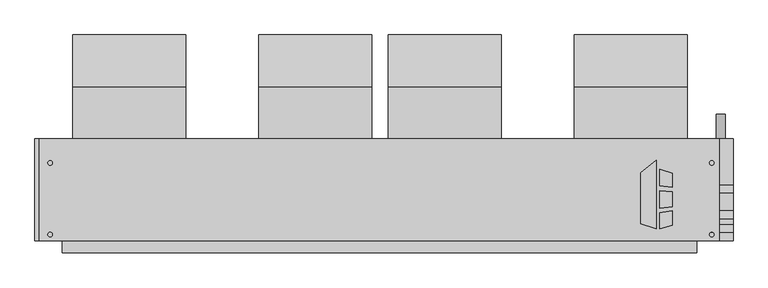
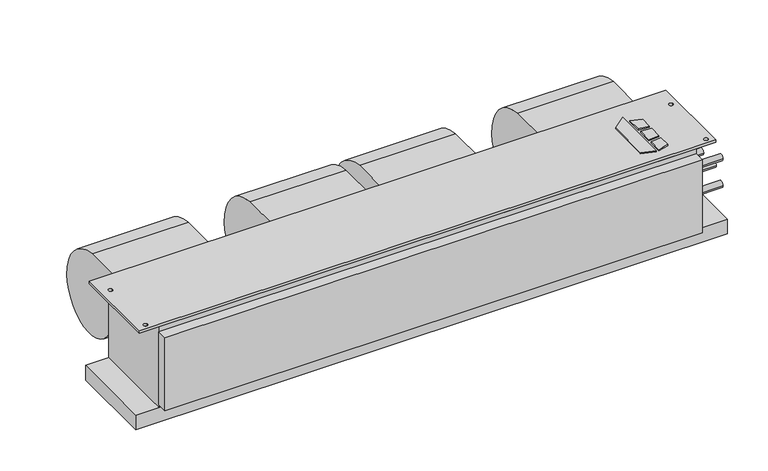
"""IFC4 building model written with IfcOpenShell, lengths in millimetres: proxy geometry, Concealed_Horizontal_Fan_Coil_Unit_-_CHY_-_IEC_-_4-Pipe_RH_2022 : Size 10 - 277v/60Hz/1Ph - 4/1 Coil."""

import ifcopenshell
import ifcopenshell.guid

model = None  # the IFC model being written
_history = None  # IfcOwnerHistory: only IFC2X3 demands one
_inside = {}  # id of a spatial element -> (the spatial element, [elements in it])
_under = {}  # id of a project, library or spatial element -> (it, [spatial elements below it])
_declared = {}  # id of a project -> (the project, [libraries it declares])
_typed = {}  # id of a type object -> (the type object, [elements of that type])
_made_of = {}  # id of a material, layer set ... -> (it, [elements and type objects made of it])


def new_model(schema):
    """Start an empty IFC model of exactly this schema.

    Asked for "IFC4X3", IfcOpenShell would pick the latest addendum, in which some entities
    have other attributes; the version numbers below select the first issue.
    IFC2X3 requires an IfcOwnerHistory on every rooted entity: one is made here for all.
    """
    global model, _history
    if schema == "IFC4X3":
        model = ifcopenshell.file(schema_version=(4, 3, 0, 0))
    else:
        model = ifcopenshell.file(schema=schema)
    _inside.clear()
    _under.clear()
    _declared.clear()
    _typed.clear()
    _made_of.clear()
    _history = None
    if model.schema == "IFC2X3":
        org = make("IfcOrganization", Name="unknown")
        user = make(
            "IfcPersonAndOrganization",
            ThePerson=make("IfcPerson", FamilyName="unknown"),
            TheOrganization=org,
        )
        app = make(
            "IfcApplication",
            ApplicationDeveloper=org,
            Version="unknown",
            ApplicationFullName="unknown",
            ApplicationIdentifier="unknown",
        )
        _history = make(
            "IfcOwnerHistory",
            OwningUser=user,
            OwningApplication=app,
            ChangeAction="ADDED",
            CreationDate=0,
        )
    return model


def make(cls, **values):
    """One entity of the class cls with the attributes given. An attribute that is None is left unset."""
    return model.create_entity(
        cls, **{name: value for name, value in values.items() if value is not None}
    )


def rooted(cls, **values):
    """An entity with a GlobalId (a new one), such as an element, a storey or a relation."""
    return make(cls, GlobalId=ifcopenshell.guid.new(), OwnerHistory=_history, **values)


def si_unit(unit_type, name, prefix=None):
    """IfcSIUnit, for example si_unit("LENGTHUNIT", "METRE", prefix="MILLI")."""
    return make("IfcSIUnit", UnitType=unit_type, Prefix=prefix, Name=name)


def assignment(units):
    """IfcUnitAssignment: the units of a project."""
    return None if units is None else make("IfcUnitAssignment", Units=units)


def point(xyz):
    """IfcCartesianPoint."""
    return None if xyz is None else make("IfcCartesianPoint", Coordinates=xyz)


def direction(xyz):
    """IfcDirection."""
    return None if xyz is None else make("IfcDirection", DirectionRatios=xyz)


def frame(location, z_axis=None, x_axis=None):
    """IfcAxis2Placement3D, a coordinate frame: its origin and axes. An axis left out is left unset."""
    return make(
        "IfcAxis2Placement3D",
        Location=point(location),
        Axis=direction(z_axis),
        RefDirection=direction(x_axis),
    )


def frame_2d(location, x_axis=None):
    """IfcAxis2Placement2D, a coordinate frame in the plane: its origin and x axis."""
    return make(
        "IfcAxis2Placement2D", Location=point(location), RefDirection=direction(x_axis)
    )


def origin():
    """The frame at (0, 0, 0) with its axes left unset."""
    return frame((0.0, 0.0, 0.0))


def origin_with_axes():
    """The frame at (0, 0, 0) with the z axis (0, 0, 1) and the x axis (1, 0, 0) written out."""
    return frame((0.0, 0.0, 0.0), z_axis=(0.0, 0.0, 1.0), x_axis=(1.0, 0.0, 0.0))


def place(relative_to, where):
    """IfcLocalPlacement: puts the frame where relative to a parent placement (None: the world)."""
    return make(
        "IfcLocalPlacement", PlacementRelTo=relative_to, RelativePlacement=where
    )


def context(
    kind, dimensions, precision=None, world=None, true_north=None, identifier=None
):
    """IfcGeometricRepresentationContext, for example the 3D "Model" context."""
    return make(
        "IfcGeometricRepresentationContext",
        ContextIdentifier=identifier,
        ContextType=kind,
        CoordinateSpaceDimension=dimensions,
        Precision=precision,
        WorldCoordinateSystem=world,
        TrueNorth=true_north,
    )


def project(units=None, contexts=None):
    """IfcProject with its units and contexts."""
    return rooted(
        "IfcProject",
        Name="project",
        RepresentationContexts=contexts,
        UnitsInContext=assignment(units),
    )


def spatial(cls, under=None, at=None, **own):
    """A site, building, storey or space (cls), placed at a placement, below another one or the project."""
    s = rooted(cls, ObjectPlacement=at, **own)
    if under is not None:
        _under.setdefault(under.id(), (under, []))[1].append(s)
    return s


def polyline(points):
    """IfcPolyline through the points."""
    return make("IfcPolyline", Points=[point(p) for p in points])


def circle_curve(where, radius):
    """IfcCircle in the frame where."""
    return make("IfcCircle", Position=where, Radius=radius)


def trimmed(basis, trim1, trim2, sense, master):
    """IfcTrimmedCurve: the piece of a basis curve between two trims."""
    return make(
        "IfcTrimmedCurve",
        BasisCurve=basis,
        Trim1=trim1,
        Trim2=trim2,
        SenseAgreement=sense,
        MasterRepresentation=master,
    )


def segment(curve, same_sense, transition):
    """IfcCompositeCurveSegment."""
    return make(
        "IfcCompositeCurveSegment",
        Transition=transition,
        SameSense=same_sense,
        ParentCurve=curve,
    )


def composite_curve(segments, self_intersect=None):
    """IfcCompositeCurve: segments joined end to end."""
    return make("IfcCompositeCurve", Segments=segments, SelfIntersect=self_intersect)


def outline(outer, holes=None, kind="AREA"):
    """IfcArbitraryClosedProfileDef: a profile drawn as a closed curve; with holes, ...WithVoids."""
    if holes is None:
        return make("IfcArbitraryClosedProfileDef", ProfileType=kind, OuterCurve=outer)
    return make(
        "IfcArbitraryProfileDefWithVoids",
        ProfileType=kind,
        OuterCurve=outer,
        InnerCurves=holes,
    )


def extrude(swept, where, along, depth):
    """IfcExtrudedAreaSolid: the profile swept, set in the frame where, extruded along a direction by depth."""
    return make(
        "IfcExtrudedAreaSolid",
        SweptArea=swept,
        Position=where,
        ExtrudedDirection=direction(along),
        Depth=depth,
    )


def shape(context_of_items, identifier, shape_type, items):
    """IfcShapeRepresentation: the items that make up one representation, for example the "Body"."""
    return make(
        "IfcShapeRepresentation",
        ContextOfItems=context_of_items,
        RepresentationIdentifier=identifier,
        RepresentationType=shape_type,
        Items=items,
    )


def source(mapping_origin, context_of_items, identifier, shape_type, items):
    """IfcRepresentationMap: a shape defined once, which mapped items show again and again."""
    return make(
        "IfcRepresentationMap",
        MappingOrigin=mapping_origin,
        MappedRepresentation=shape(context_of_items, identifier, shape_type, items),
    )


def transform(
    local_origin,
    x_axis=None,
    y_axis=None,
    z_axis=None,
    scale=None,
    scale2=None,
    scale3=None,
    uniform=True,
):
    """IfcCartesianTransformationOperator3D, or its non-uniform kind. x_axis, y_axis, z_axis: its Axis1, 2, 3."""
    if uniform:
        return make(
            "IfcCartesianTransformationOperator3D",
            Axis1=direction(x_axis),
            Axis2=direction(y_axis),
            LocalOrigin=point(local_origin),
            Scale=scale,
            Axis3=direction(z_axis),
        )
    return make(
        "IfcCartesianTransformationOperator3DnonUniform",
        Axis1=direction(x_axis),
        Axis2=direction(y_axis),
        LocalOrigin=point(local_origin),
        Scale=scale,
        Axis3=direction(z_axis),
        Scale2=scale2,
        Scale3=scale3,
    )


def mapped(mapping_source, mapping_target):
    """IfcMappedItem: shows the shape of a source again, moved by a transform."""
    return make(
        "IfcMappedItem", MappingSource=mapping_source, MappingTarget=mapping_target
    )


def made_of(thing, what):
    """Note that an element or type object is made of a material, layer set ...; save() writes the relation."""
    if what is not None:
        _made_of.setdefault(what.id(), (what, []))[1].append(thing)
    return thing


def element(
    cls,
    number,
    at=None,
    inside=None,
    cuts=None,
    type_object=None,
    material=None,
    context=None,
    identifier="Body",
    shape_type=None,
    held_by="IfcProductDefinitionShape",
    body=None,
    shapes=None,
    **own,
):
    """One element of the class cls, such as IfcWall. Its Tag is "e" and its number.

    at: its placement. inside: the storey or other place that contains it. cuts: it is an
    opening in that element (IfcRelVoidsElement). A single representation is given by context,
    identifier, shape_type and body (its items); several are given by shapes. held_by: the class
    of the entity that holds the representations. save() writes the other relations.
    """
    e = rooted(cls, Tag="e%d" % number, ObjectPlacement=at, **own)
    if body is not None:
        shapes = [shape(context, identifier, shape_type, body)]
    if shapes is not None:
        e.Representation = make(held_by, Representations=shapes)
    if inside is not None:
        _inside.setdefault(inside.id(), (inside, []))[1].append(e)
    if cuts is not None:
        rooted(
            "IfcRelVoidsElement", RelatingBuildingElement=cuts, RelatedOpeningElement=e
        )
    if type_object is not None:
        _typed.setdefault(type_object.id(), (type_object, []))[1].append(e)
    return made_of(e, material)


def aggregate(whole, parts):
    """IfcRelAggregates: a whole, such as a stair, and the parts it consists of."""
    return rooted("IfcRelAggregates", RelatingObject=whole, RelatedObjects=parts)


def save(model, path):
    """Write the relations noted so far, then the file.

    IfcRelAggregates (storeys below a building ...), IfcRelContainedInSpatialStructure (elements
    in a storey), IfcRelDefinesByType, IfcRelAssociatesMaterial and IfcRelDeclares: one each for
    every whole, place, type object, material and project.
    """
    for whole, parts in _under.values():
        aggregate(whole, parts)
    for where, things in _inside.values():
        rooted(
            "IfcRelContainedInSpatialStructure",
            RelatedElements=things,
            RelatingStructure=where,
        )
    for kind, things in _typed.values():
        rooted("IfcRelDefinesByType", RelatedObjects=things, RelatingType=kind)
    for what, things in _made_of.values():
        rooted("IfcRelAssociatesMaterial", RelatedObjects=things, RelatingMaterial=what)
    for by, libraries in _declared.values():
        rooted("IfcRelDeclares", RelatingContext=by, RelatedDefinitions=libraries)
    model.write(path)


def mechanical_equipment_dacc72c7(model_context):
    return source(origin(), model_context, "Body", "SweptSolid", [
        extrude(outline(polyline([(696.6019761, -202.5703476), (729.1602728, -177.1330184), (729.1602728, -319.0875), (696.6019761, -308.8679201), (696.6019761, -202.5703476)])), origin_with_axes(), (0.0, 0.0, 1.0), 3.175),
        extrude(outline(polyline([(735.9186058, -230.442352), (735.9186058, -195.9624379), (762.0, -204.1490115), (762.0, -233.6447446), (735.9186058, -230.442352)])), origin_with_axes(), (0.0, 0.0, 1.0), 3.175),
        extrude(outline(polyline([(762.0, -312.0990115), (735.9186058, -319.0875), (735.9186058, -285.8661996), (762.0, -282.3243564), (762.0, -312.0990115)])), origin_with_axes(), (0.0, 0.0, 1.0), 3.175),
        extrude(outline(polyline([(762.0, -242.7263277), (762.0, -273.976483), (735.9186058, -276.717748), (735.9186058, -240.8600378), (762.0, -242.7263277)])), origin_with_axes(), (0.0, 0.0, 1.0), 3.175),
        extrude(outline(composite_curve([segment(trimmed(circle_curve(frame_2d((-33.198831, -136.0299844)), 117.3559541), [point((-23.8125, -19.05))], [point((84.1375, -138.176))], False, "CARTESIAN"), True, "CONTINUOUS"), segment(trimmed(circle_curve(frame_2d((-11.5977337, -136.4250563)), 95.7512443), [point((84.1375, -138.176))], [point((-23.8125, -231.394))], False, "CARTESIAN"), True, "CONTINUOUS"), segment(trimmed(circle_curve(frame_2d((-11.6288131, -136.6666968)), 95.5076133), [point((-23.8125, -231.394))], [point((-107.1245, -138.176))], False, "CARTESIAN"), True, "CONTINUOUS"), segment(trimmed(circle_curve(frame_2d((-126.2059828, -138.4775816)), 19.0838659), [point((-107.1245, -138.176))], [point((-119.3963373, -120.65))], True, "CARTESIAN"), True, "CONTINUOUS"), segment(polyline([(-119.3963373, -120.65), (-131.7625, -120.65), (-131.7625, -19.05), (-23.8125, -19.05)]), True, "CONTINUOUS")], self_intersect=False)), frame((558.038, 0.0, 0.0), z_axis=(1.0, 0.0, 0.0), x_axis=(0.0, 1.0, 0.0)), (0.0, 0.0, 1.0), 235.712),
        extrude(outline(composite_curve([segment(trimmed(circle_curve(frame_2d((-33.198831, -136.0299844)), 117.3559541), [point((-23.8125, -19.05))], [point((84.1375, -138.176))], False, "CARTESIAN"), True, "CONTINUOUS"), segment(trimmed(circle_curve(frame_2d((-11.5977337, -136.4250563)), 95.7512443), [point((84.1375, -138.176))], [point((-23.8125, -231.394))], False, "CARTESIAN"), True, "CONTINUOUS"), segment(trimmed(circle_curve(frame_2d((-11.6288131, -136.6666968)), 95.5076133), [point((-23.8125, -231.394))], [point((-107.1245, -138.176))], False, "CARTESIAN"), True, "CONTINUOUS"), segment(trimmed(circle_curve(frame_2d((-126.2059828, -138.4775816)), 19.0838659), [point((-107.1245, -138.176))], [point((-119.3963373, -120.65))], True, "CARTESIAN"), True, "CONTINUOUS"), segment(polyline([(-119.3963373, -120.65), (-131.7625, -120.65), (-131.7625, -19.05), (-23.8125, -19.05)]), True, "CONTINUOUS")], self_intersect=False)), frame((-486.537, 0.0, 0.0), z_axis=(1.0, 0.0, 0.0), x_axis=(0.0, 1.0, 0.0)), (0.0, 0.0, 1.0), 235.712),
        extrude(outline(composite_curve([segment(trimmed(circle_curve(frame_2d((-33.198831, -136.0299844)), 117.3559541), [point((-23.8125, -19.05))], [point((84.1375, -138.176))], False, "CARTESIAN"), True, "CONTINUOUS"), segment(trimmed(circle_curve(frame_2d((-11.5977337, -136.4250563)), 95.7512443), [point((84.1375, -138.176))], [point((-23.8125, -231.394))], False, "CARTESIAN"), True, "CONTINUOUS"), segment(trimmed(circle_curve(frame_2d((-11.6288131, -136.6666968)), 95.5076133), [point((-23.8125, -231.394))], [point((-107.1245, -138.176))], False, "CARTESIAN"), True, "CONTINUOUS"), segment(trimmed(circle_curve(frame_2d((-126.2059828, -138.4775816)), 19.0838659), [point((-107.1245, -138.176))], [point((-119.3963373, -120.65))], True, "CARTESIAN"), True, "CONTINUOUS"), segment(polyline([(-119.3963373, -120.65), (-131.7625, -120.65), (-131.7625, -19.05), (-23.8125, -19.05)]), True, "CONTINUOUS")], self_intersect=False)), frame((-99.187, 0.0, 0.0), z_axis=(1.0, 0.0, 0.0), x_axis=(0.0, 1.0, 0.0)), (0.0, 0.0, 1.0), 235.712),
        extrude(outline(composite_curve([segment(trimmed(circle_curve(frame_2d((-33.198831, -136.0299844)), 117.3559541), [point((-23.8125, -19.05))], [point((84.1375, -138.176))], False, "CARTESIAN"), True, "CONTINUOUS"), segment(trimmed(circle_curve(frame_2d((-11.5977337, -136.4250563)), 95.7512443), [point((84.1375, -138.176))], [point((-23.8125, -231.394))], False, "CARTESIAN"), True, "CONTINUOUS"), segment(trimmed(circle_curve(frame_2d((-11.6288131, -136.6666968)), 95.5076133), [point((-23.8125, -231.394))], [point((-107.1245, -138.176))], False, "CARTESIAN"), True, "CONTINUOUS"), segment(trimmed(circle_curve(frame_2d((-126.2059828, -138.4775816)), 19.0838659), [point((-107.1245, -138.176))], [point((-119.3963373, -120.65))], True, "CARTESIAN"), True, "CONTINUOUS"), segment(polyline([(-119.3963373, -120.65), (-131.7625, -120.65), (-131.7625, -19.05), (-23.8125, -19.05)]), True, "CONTINUOUS")], self_intersect=False)), frame((170.688, 0.0, 0.0), z_axis=(1.0, 0.0, 0.0), x_axis=(0.0, 1.0, 0.0)), (0.0, 0.0, 1.0), 235.712),
        extrude(outline(polyline([(860.425, -131.7625), (860.425, -344.4875), (-555.625, -344.4875), (-555.625, -131.7625), (860.425, -131.7625)]), holes=[composite_curve([segment(trimmed(circle_curve(frame_2d((-533.4, -182.5625)), 4.7625), [point((-538.1625, -182.5625))], [point((-528.6375, -182.5625))], True, "CARTESIAN"), True, "CONTINUOUS"), segment(trimmed(circle_curve(frame_2d((-533.4, -182.5625)), 4.7625), [point((-528.6375, -182.5625))], [point((-538.1625, -182.5625))], True, "CARTESIAN"), True, "CONTINUOUS")], self_intersect=False), composite_curve([segment(trimmed(circle_curve(frame_2d((-533.4, -331.7875)), 4.7625), [point((-538.1625, -331.7875))], [point((-528.6375, -331.7875))], True, "CARTESIAN"), True, "CONTINUOUS"), segment(trimmed(circle_curve(frame_2d((-533.4, -331.7875)), 4.7625), [point((-528.6375, -331.7875))], [point((-538.1625, -331.7875))], True, "CARTESIAN"), True, "CONTINUOUS")], self_intersect=False), composite_curve([segment(trimmed(circle_curve(frame_2d((844.55, -182.5625)), 4.7625), [point((839.7875, -182.5625))], [point((849.3125, -182.5625))], True, "CARTESIAN"), True, "CONTINUOUS"), segment(trimmed(circle_curve(frame_2d((844.55, -182.5625)), 4.7625), [point((849.3125, -182.5625))], [point((839.7875, -182.5625))], True, "CARTESIAN"), True, "CONTINUOUS")], self_intersect=False), composite_curve([segment(trimmed(circle_curve(frame_2d((844.55, -331.7875)), 4.7625), [point((839.7875, -331.7875))], [point((849.3125, -331.7875))], True, "CARTESIAN"), True, "CONTINUOUS"), segment(trimmed(circle_curve(frame_2d((844.55, -331.7875)), 4.7625), [point((849.3125, -331.7875))], [point((839.7875, -331.7875))], True, "CARTESIAN"), True, "CONTINUOUS")], self_intersect=False)]), frame((0.0, 0.0, -6.35), z_axis=(0.0, 0.0, 1.0), x_axis=(1.0, 0.0, 0.0)), (0.0, 0.0, 1.0), 6.35),
        extrude(outline(composite_curve([segment(trimmed(circle_curve(frame_2d((-241.3, 863.6)), 9.525), [point((-241.3, 854.075))], [point((-241.3, 873.125))], False, "CARTESIAN"), True, "CONTINUOUS"), segment(trimmed(circle_curve(frame_2d((-241.3, 863.6)), 9.525), [point((-241.3, 873.125))], [point((-241.3, 854.075))], False, "CARTESIAN"), True, "CONTINUOUS")], self_intersect=False)), frame((0.0, -131.7625, 0.0), z_axis=(0.0, 1.0, 0.0), x_axis=(0.0, 0.0, 1.0)), (0.0, 0.0, 1.0), 50.8),
        extrude(outline(polyline([(812.8, -369.8875), (-508.0, -369.8875), (-508.0, -344.4875), (812.8, -344.4875), (812.8, -369.8875)])), frame((0.0, 0.0, -209.55), z_axis=(0.0, 0.0, 1.0), x_axis=(1.0, 0.0, 0.0)), (0.0, 0.0, 1.0), 190.5),
        extrude(outline(polyline([(889.0, -131.7625), (889.0, -344.4875), (-565.15, -344.4875), (-565.15, -131.7625), (889.0, -131.7625)])), frame((0.0, 0.0, -254.0), z_axis=(0.0, 0.0, 1.0), x_axis=(1.0, 0.0, 0.0)), (0.0, 0.0, 1.0), 38.1),
        extrude(outline(composite_curve([segment(trimmed(circle_curve(frame_2d((-236.5375, -104.775)), 7.9375), [point((-244.475, -104.775))], [point((-228.6, -104.775))], False, "CARTESIAN"), True, "CONTINUOUS"), segment(trimmed(circle_curve(frame_2d((-236.5375, -104.775)), 7.9375), [point((-228.6, -104.775))], [point((-244.475, -104.775))], False, "CARTESIAN"), True, "CONTINUOUS")], self_intersect=False)), frame((812.8, 0.0, 0.0), z_axis=(1.0, 0.0, 0.0), x_axis=(0.0, 1.0, 0.0)), (0.0, 0.0, 1.0), 76.2),
        extrude(outline(composite_curve([segment(trimmed(circle_curve(frame_2d((-290.5125, -104.775)), 7.9375), [point((-298.45, -104.775))], [point((-282.575, -104.775))], False, "CARTESIAN"), True, "CONTINUOUS"), segment(trimmed(circle_curve(frame_2d((-290.5125, -104.775)), 7.9375), [point((-282.575, -104.775))], [point((-298.45, -104.775))], False, "CARTESIAN"), True, "CONTINUOUS")], self_intersect=False)), frame((812.8, 0.0, 0.0), z_axis=(1.0, 0.0, 0.0), x_axis=(0.0, 1.0, 0.0)), (0.0, 0.0, 1.0), 76.2),
        extrude(outline(composite_curve([segment(trimmed(circle_curve(frame_2d((-319.0875, -69.85)), 7.9375), [point((-327.025, -69.85))], [point((-311.15, -69.85))], False, "CARTESIAN"), True, "CONTINUOUS"), segment(trimmed(circle_curve(frame_2d((-319.0875, -69.85)), 7.9375), [point((-311.15, -69.85))], [point((-327.025, -69.85))], False, "CARTESIAN"), True, "CONTINUOUS")], self_intersect=False)), frame((812.8, 0.0, 0.0), z_axis=(1.0, 0.0, 0.0), x_axis=(0.0, 1.0, 0.0)), (0.0, 0.0, 1.0), 76.2),
        extrude(outline(composite_curve([segment(trimmed(circle_curve(frame_2d((-319.0875, -139.7)), 7.9375), [point((-327.025, -139.7))], [point((-311.15, -139.7))], False, "CARTESIAN"), True, "CONTINUOUS"), segment(trimmed(circle_curve(frame_2d((-319.0875, -139.7)), 7.9375), [point((-311.15, -139.7))], [point((-327.025, -139.7))], False, "CARTESIAN"), True, "CONTINUOUS")], self_intersect=False)), frame((812.8, 0.0, 0.0), z_axis=(1.0, 0.0, 0.0), x_axis=(0.0, 1.0, 0.0)), (0.0, 0.0, 1.0), 76.2),
        extrude(outline(polyline([(812.8, -344.4875), (-508.0, -344.4875), (-508.0, -131.7625), (812.8, -131.7625), (812.8, -344.4875)])), frame((0.0, 0.0, -215.9), z_axis=(0.0, 0.0, 1.0), x_axis=(1.0, 0.0, 0.0)), (0.0, 0.0, 1.0), 209.55),
    ])


if __name__ == "__main__":
    model = new_model("IFC4")
    model_context = context("Model", 3, world=origin())
    ifc_project = project(units=[si_unit("LENGTHUNIT", "METRE", prefix="MILLI")], contexts=[model_context])
    site = spatial("IfcSite", under=ifc_project)
    building = spatial("IfcBuilding", under=site)
    placement = place(None, origin())
    mechanical_equipment_shape = mechanical_equipment_dacc72c7(model_context)
    element("IfcBuildingElementProxy", 1, Name="Concealed_Horizontal_Fan_Coil_Unit_-_CHY_-_IEC_-_4-Pipe_RH_2022 : Size 10 - 277v/60Hz/1Ph - 4/1 Coil", ObjectType="Concealed_Horizontal_Fan_Coil_Unit_-_CHY_-_IEC_-_4-Pipe_RH_2022 : Size 10 - 277v/60Hz/1Ph - 4/1 Coil", at=placement, inside=building, context=model_context, shape_type="MappedRepresentation", body=[
        mapped(mechanical_equipment_shape, transform((0.0, 0.0, 0.0), x_axis=(1.0, 0.0, 0.0), y_axis=(0.0, 1.0, 0.0), z_axis=(0.0, 0.0, 1.0))),
    ])
    save(model, "model.ifc")
